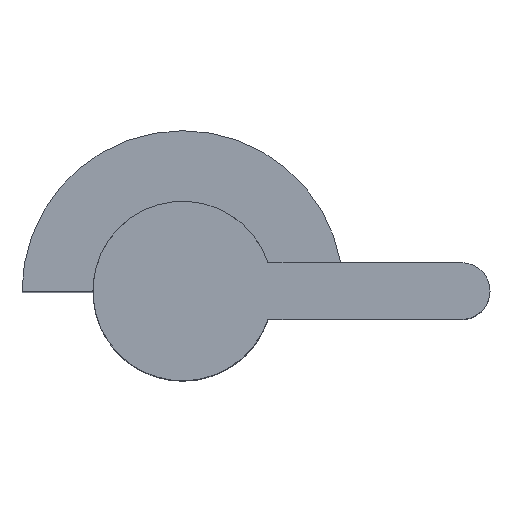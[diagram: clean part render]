
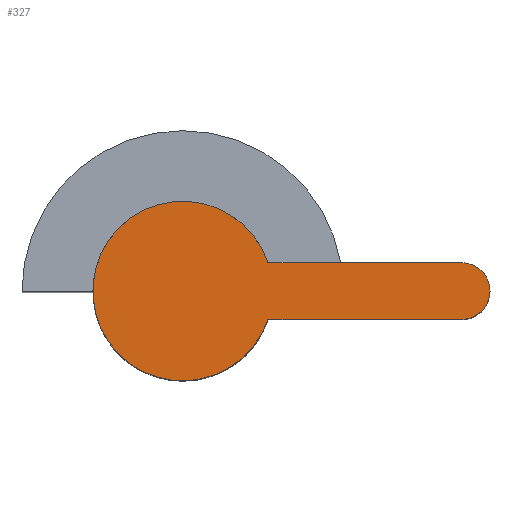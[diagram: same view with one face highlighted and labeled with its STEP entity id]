
A CAD part, top view. The second image highlights one B-rep face of the part: STEP entity #327.
In plain terms, the highlighted planar face has unit normal (0, 0, 1).
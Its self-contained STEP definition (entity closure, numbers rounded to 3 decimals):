
#327=ADVANCED_FACE('',(#455),#395,.F.);
#395=PLANE('',#1626);
#455=FACE_OUTER_BOUND('',#572,.T.);
#572=EDGE_LOOP('',(#929,#930,#931,#932));
#672=CIRCLE('',#1623,19.);
#673=CIRCLE('',#1625,6.);
#929=ORIENTED_EDGE('',*,*,#1302,.F.);
#930=ORIENTED_EDGE('',*,*,#1305,.F.);
#931=ORIENTED_EDGE('',*,*,#1306,.F.);
#932=ORIENTED_EDGE('',*,*,#1307,.F.);
#1139=VERTEX_POINT('',#2628);
#1140=VERTEX_POINT('',#2630);
#1142=VERTEX_POINT('',#2651);
#1143=VERTEX_POINT('',#2653);
#1302=EDGE_CURVE('',#1139,#1140,#672,.T.);
#1305=EDGE_CURVE('',#1142,#1139,#1409,.T.);
#1306=EDGE_CURVE('',#1143,#1142,#673,.T.);
#1307=EDGE_CURVE('',#1140,#1143,#1410,.T.);
#1409=LINE('',#2650,#1481);
#1410=LINE('',#2654,#1482);
#1481=VECTOR('',#1973,1.);
#1482=VECTOR('',#1976,1.);
#1623=AXIS2_PLACEMENT_3D('',#2629,#1968,#1969);
#1625=AXIS2_PLACEMENT_3D('',#2652,#1974,#1975);
#1626=AXIS2_PLACEMENT_3D('',#2655,#1977,#1978);
#1968=DIRECTION('',(0.,0.,-1.));
#1969=DIRECTION('',(-1.,0.,0.));
#1973=DIRECTION('',(-1.,0.,0.));
#1974=DIRECTION('',(0.,0.,-1.));
#1975=DIRECTION('',(-1.,0.,0.));
#1976=DIRECTION('',(1.,0.,0.));
#1977=DIRECTION('',(0.,0.,-1.));
#1978=DIRECTION('',(-1.,0.,0.));
#2628=CARTESIAN_POINT('',(18.028,-6.,38.));
#2629=CARTESIAN_POINT('',(0.,0.,38.));
#2630=CARTESIAN_POINT('',(18.028,6.,38.));
#2650=CARTESIAN_POINT('',(59.,-6.,38.));
#2651=CARTESIAN_POINT('',(59.,-6.,38.));
#2652=CARTESIAN_POINT('',(59.,0.,38.));
#2653=CARTESIAN_POINT('',(59.,6.,38.));
#2654=CARTESIAN_POINT('',(0.,6.,38.));
#2655=CARTESIAN_POINT('',(0.,0.,38.));
